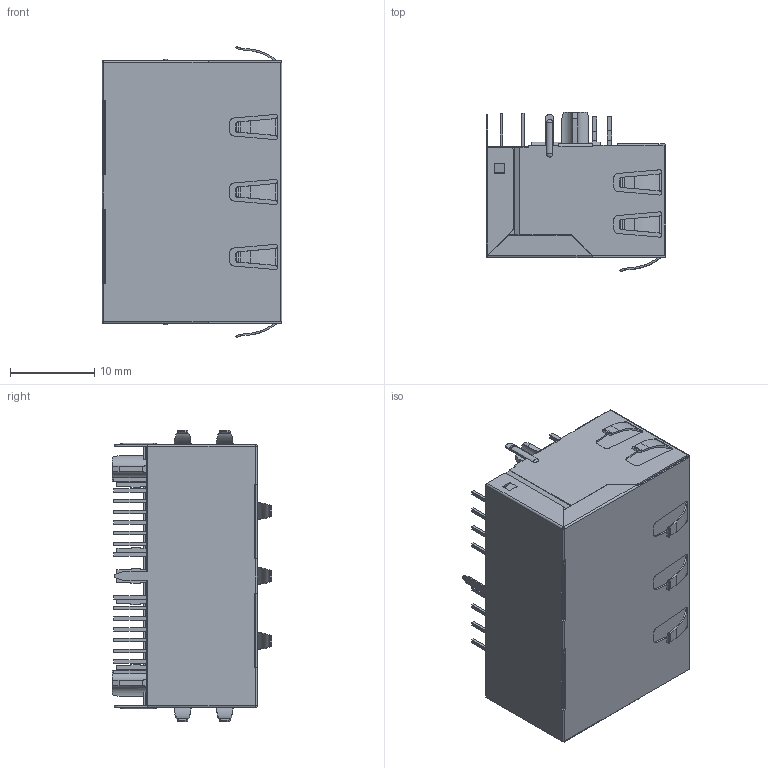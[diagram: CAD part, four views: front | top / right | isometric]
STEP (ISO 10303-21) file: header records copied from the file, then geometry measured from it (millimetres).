
FILE_DESCRIPTION (( 'STEP AP214' ), '1' );
FILE_NAME ('JXD0-2005NL_20170217.STEP', '2017-02-17T01:43:55', ( '' ), ( '' ), 'SwSTEP 2.0', 'SolidWorks 2012', '' );
FILE_SCHEMA (( 'AUTOMOTIVE_DESIGN' ));
Length unit declared in the file: millimetre
Products named in the file (1): JXD0-2005NL_20170217
Bounding box: 21.35 x 18.93 x 34.6 mm (x, y, z)
Volume: 6292.2 mm3; surface area: 9702.4 mm2
Topology: 6 solids, 6 shells, 1609 faces, 4359 edges, 2752 vertices
Faces by surface type: plane 1223, cylinder 290, bspline 96
Entity records: 71326 total; most frequent: CARTESIAN_POINT 14203, ORIENTED_EDGE 8702, DIRECTION 7223, EDGE_CURVE 4351, VECTOR 3581, LINE 3581, VERTEX_POINT 2752, AXIS2_PLACEMENT_3D 1821
